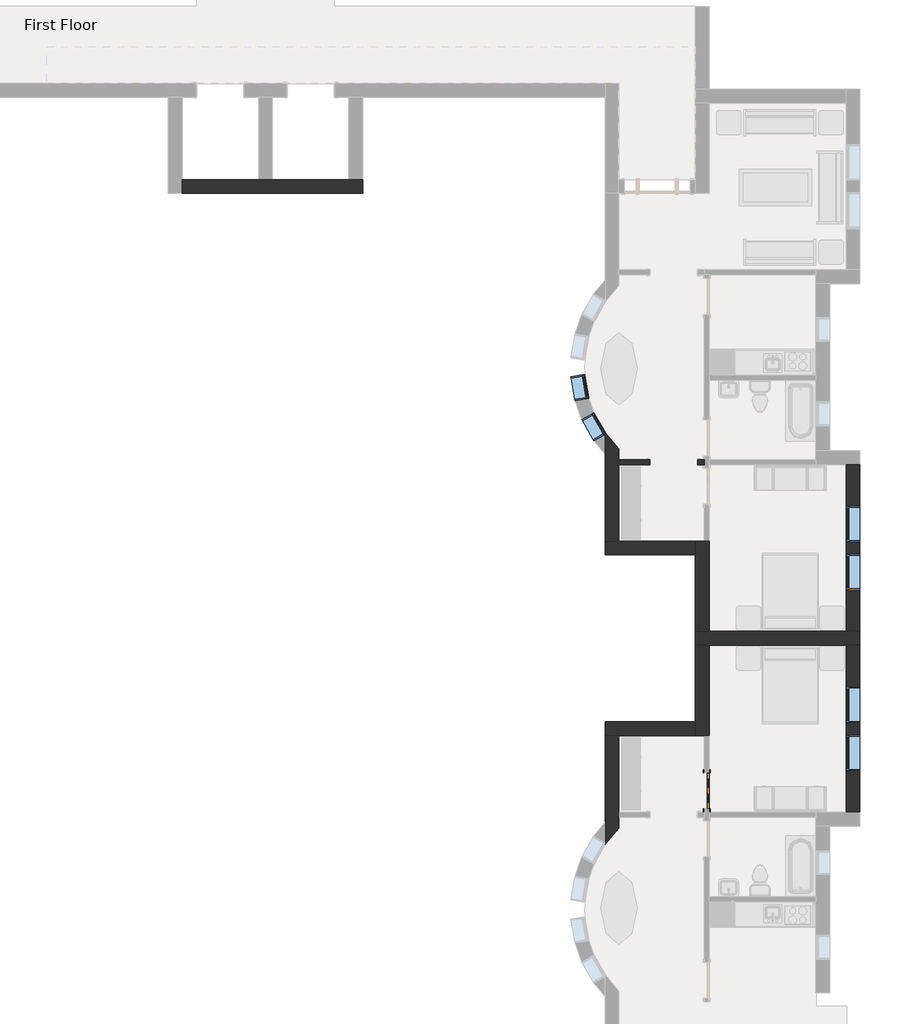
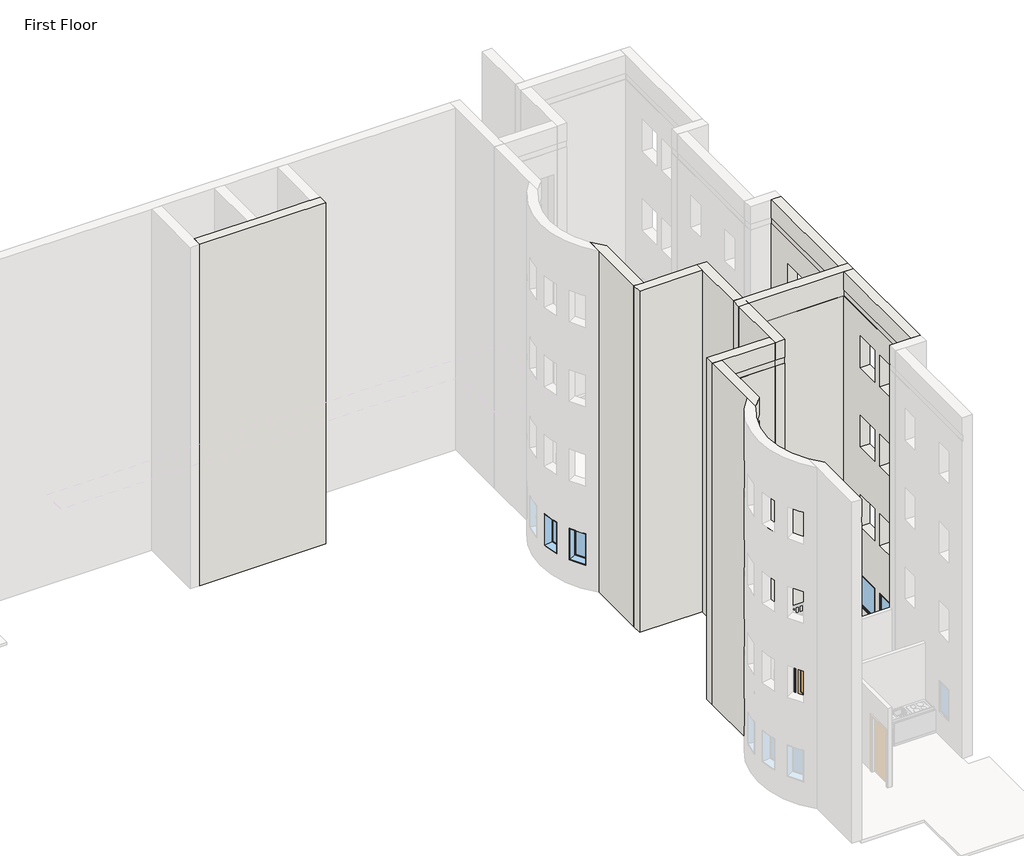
# One storey, part 11 of 24: 12 walls, 6 windows, 1 door.
"""IFC4 building model written with IfcOpenShell, lengths in millimetres."""

from ifc_helpers import new_model, si_unit, frame, origin, place, context, project, spatial, polyline, circle_curve, outline, extrude, faceted_brep, transform, mapped, element, save
from ifc_brep_helpers import plane_surface, revolved_surface, advanced_brep
from components import door_2e3b4da2, window_ed80354a, window_15c49d37, window_0e2fc6ce

model = new_model("IFC4")

# Units and contexts
model_context = context("Model", 3, world=origin())
ifc_project = project(units=[si_unit("LENGTHUNIT", "METRE", prefix="MILLI")], contexts=[model_context])

# Site, building, storey
site = spatial("IfcSite", under=ifc_project)
building = spatial("IfcBuilding", under=site)
storey = spatial("IfcBuildingStorey", under=building, Name="First Floor", Elevation=0.0)

# Door
placement = place(None, origin())
door_shape = door_2e3b4da2(model_context)
element("IfcDoor", 1, ObjectType="Single-Decorative 2 : 36\" x 84\"", at=placement, inside=storey, context=model_context, shape_type="MappedRepresentation", body=[
    mapped(door_shape, transform((-3773.4589563, -15653.8558133, 0.0), x_axis=(0.0, -1.0, 0.0), y_axis=(1.0, 0.0, 0.0), z_axis=(0.0, 0.0, 1.0))),
])

# Walls
element("IfcWall", 2, ObjectType="Exterior - Brick on Mtl. Stud", at=placement, inside=storey, context=model_context, shape_type="Brep", body=[
    faceted_brep([(-17044.9589563, -550.3808133, 0.0), (-12472.9589563, -550.3808133, 0.0), (-12472.9589563, -550.3808133, 13106.4), (-17044.9589563, -550.3808133, 13106.4), (-17044.9589563, -197.9558133, 0.0), (-17044.9589563, -197.9558133, 13106.4), (-15111.3839563, -197.9558133, 13106.4), (-14758.9589563, -197.9558133, 13106.4), (-12825.3839563, -197.9558133, 13106.4), (-12472.9589563, -197.9558133, 13106.4), (-12472.9589563, -197.9558133, 0.0), (-12825.3839563, -197.9558133, 0.0), (-14758.9589563, -197.9558133, 0.0), (-15111.3839563, -197.9558133, 0.0)], [[[0, 1, 2, 3]], [[4, 5, 6, 7, 8, 9, 10, 11, 12, 13]], [[1, 0, 4, 13, 12, 11, 10]], [[3, 2, 9, 8, 7, 6, 5]], [[2, 1, 10, 9]], [[0, 3, 5, 4]]]),
])
element("IfcWall", 3, ObjectType="Exterior - Brick on Mtl. Stud", at=placement, inside=storey, context=model_context, shape_type="Brep", body=[
    faceted_brep([(100.0410437, -11627.9558133, 0.0), (-252.3839563, -11627.9558133, 0.0), (-3709.9589563, -11627.9558133, 0.0), (-4062.3839563, -11627.9558133, 0.0), (-4062.3839563, -11627.9558133, 13106.4), (-3709.9589563, -11627.9558133, 13106.4), (-252.3839563, -11627.9558133, 13106.4), (100.0410437, -11627.9558133, 13106.4), (-3722.6589563, -11627.9558133, 12192.0), (-3709.9589563, -11627.9558133, 12192.0), (-252.3839563, -11627.9558133, 12192.0), (-239.6839563, -11627.9558133, 12192.0), (-239.6839563, -11627.9558133, 12420.6), (-252.3839563, -11627.9558133, 12420.6), (-3709.9589563, -11627.9558133, 12420.6), (-3722.6589563, -11627.9558133, 12420.6), (-4062.3839563, -11980.3808133, 0.0), (-3709.9589563, -11980.3808133, 0.0), (-252.3839563, -11980.3808133, 0.0), (100.0410437, -11980.3808133, 0.0), (100.0410437, -11980.3808133, 13106.4), (-252.3839563, -11980.3808133, 13106.4), (-3709.9589563, -11980.3808133, 13106.4), (-4062.3839563, -11980.3808133, 13106.4), (-3722.6589563, -11640.6558133, 12192.0), (-239.6839563, -11640.6558133, 12192.0), (-239.6839563, -11640.6558133, 12420.6), (-3722.6589563, -11640.6558133, 12420.6)], [[[0, 1, 2, 3, 4, 5, 6, 7], [8, 9, 10, 11, 12, 13, 14, 15]], [[16, 17, 18, 19, 20, 21, 22, 23]], [[3, 2, 1, 0, 19, 18, 17, 16]], [[7, 6, 5, 4, 23, 22, 21, 20]], [[4, 3, 16, 23]], [[0, 7, 20, 19]], [[24, 25, 11, 10, 9, 8]], [[26, 27, 15, 14, 13, 12]], [[25, 24, 27, 26]], [[25, 26, 12, 11]], [[27, 24, 8, 15]]]),
])
element("IfcWall", 4, ObjectType="Exterior - Brick on Mtl. Stud", at=placement, inside=storey, context=model_context, shape_type="Brep", body=[
    faceted_brep([(-3709.9589563, -11627.9558133, 0.0), (-3709.9589563, -9341.9558133, 0.0), (-3709.9589563, -9341.9558133, 3048.0), (-3709.9589563, -9341.9558133, 6096.0), (-3709.9589563, -9341.9558133, 9144.0), (-3709.9589563, -9341.9558133, 12192.0), (-3709.9589563, -11627.9558133, 12192.0), (-3709.9589563, -9341.9558133, 13106.4), (-3709.9589563, -11627.9558133, 13106.4), (-3709.9589563, -11627.9558133, 12420.6), (-3709.9589563, -9341.9558133, 12420.6), (-4062.3839563, -9341.9558133, 0.0), (-4062.3839563, -9694.3808133, 0.0), (-4062.3839563, -11627.9558133, 0.0), (-4062.3839563, -11627.9558133, 13106.4), (-4062.3839563, -9694.3808133, 13106.4), (-4062.3839563, -9341.9558133, 13106.4), (-4062.3839563, -9341.9558133, 12420.6), (-4062.3839563, -9354.6558133, 12420.6), (-4062.3839563, -9354.6558133, 12192.0), (-4062.3839563, -9341.9558133, 12192.0), (-3836.9589563, -9341.9558133, 0.0), (-3836.9589563, -9341.9558133, 12192.0), (-3722.6589563, -11627.9558133, 12192.0), (-3722.6589563, -11627.9558133, 12420.6), (-3722.6589563, -9354.6558133, 12192.0), (-3722.6589563, -9354.6558133, 12420.6)], [[[0, 1, 2, 3, 4, 5, 6]], [[7, 8, 9, 10]], [[11, 12, 13, 14, 15, 16, 17, 18, 19, 20]], [[1, 0, 13, 12, 11, 21]], [[8, 7, 16, 15, 14]], [[1, 21, 11, 20, 22, 5, 4, 3, 2]], [[16, 7, 10, 17]], [[8, 14, 13, 0, 6, 23, 24, 9]], [[19, 25, 23, 6, 5, 22, 20]], [[24, 26, 18, 17, 10, 9]], [[26, 25, 19, 18]], [[25, 26, 24, 23]]]),
])
element("IfcWall", 5, ObjectType="Exterior - Brick on Mtl. Stud", at=placement, inside=storey, context=model_context, shape_type="Brep", body=[
    faceted_brep([(-4062.3839563, -9341.9558133, 0.0), (-5995.9589563, -9341.9558133, 0.0), (-6348.3839563, -9341.9558133, 0.0), (-6348.3839563, -9341.9558133, 13106.4), (-5995.9589563, -9341.9558133, 13106.4), (-4062.3839563, -9341.9558133, 13106.4), (-4062.3839563, -9341.9558133, 12420.6), (-5995.9589563, -9341.9558133, 12420.6), (-6008.6589563, -9341.9558133, 12420.6), (-6008.6589563, -9341.9558133, 12192.0), (-5995.9589563, -9341.9558133, 12192.0), (-4062.3839563, -9341.9558133, 12192.0), (-6348.3839563, -9694.3808133, 0.0), (-4062.3839563, -9694.3808133, 0.0), (-4062.3839563, -9694.3808133, 13106.4), (-6348.3839563, -9694.3808133, 13106.4), (-4062.3839563, -9354.6558133, 12192.0), (-4062.3839563, -9354.6558133, 12420.6), (-6008.6589563, -9354.6558133, 12192.0), (-6008.6589563, -9354.6558133, 12420.6)], [[[0, 1, 2, 3, 4, 5, 6, 7, 8, 9, 10, 11]], [[12, 13, 14, 15]], [[2, 1, 0, 13, 12]], [[5, 4, 3, 15, 14]], [[3, 2, 12, 15]], [[5, 14, 13, 0, 11, 16, 17, 6]], [[9, 18, 16, 11, 10]], [[17, 19, 8, 7, 6]], [[19, 18, 9, 8]], [[18, 19, 17, 16]]]),
])
element("IfcWall", 6, ObjectType="Exterior - Brick on Mtl. Stud", at=placement, inside=storey, context=model_context, shape_type="AdvancedBrep", body=[
    advanced_brep(
    [(-5995.9589563, -9341.9558133, 0.0), (-5995.9589563, -7408.3808133, 0.0), (-5995.9589563, -7281.3808133, 0.0), (-5995.9589563, -7006.552661, 0.0), (-5995.9589563, -7006.552661, 12192.0), (-5995.9589563, -7281.3808133, 12192.0), (-5995.9589563, -7408.3808133, 12192.0), (-5995.9589563, -9341.9558133, 12192.0), (-5995.9589563, -7006.552661, 13106.4), (-5995.9589563, -9341.9558133, 13106.4), (-5995.9589563, -9341.9558133, 12420.6), (-5995.9589563, -7006.552661, 12420.6), (-6348.3839563, -6592.6589631, 0.0), (-6348.3839563, -7150.5535473, 0.0), (-6348.3839563, -9341.9558133, 0.0), (-6348.3839563, -9341.9558133, 13106.4), (-6348.3839563, -7150.5535473, 13106.4), (-6348.3839563, -6592.6589631, 13106.4), (-6348.3839563, -6592.6589631, 12420.6), (-6348.3839563, -6901.1458841, 12420.6), (-6348.3839563, -6901.1458841, 12192.0), (-6348.3839563, -6592.6589631, 12192.0), (-6348.3839563, -6592.6589631, 11277.6), (-6348.3839563, -6641.947211, 11277.6), (-6348.3839563, -6641.947211, 10058.4), (-6348.3839563, -6592.6589631, 10058.4), (-6348.3839563, -6592.6589631, 8229.6), (-6348.3839563, -6641.947211, 8229.6), (-6348.3839563, -6641.947211, 7010.4), (-6348.3839563, -6592.6589631, 7010.4), (-6348.3839563, -6592.6589631, 5181.6), (-6348.3839563, -6641.947211, 5181.6), (-6348.3839563, -6641.947211, 3962.4), (-6348.3839563, -6592.6589631, 3962.4), (-6348.3839563, -6592.6589631, 2133.6), (-6348.3839563, -6641.947211, 2133.6), (-6348.3839563, -6641.947211, 914.4), (-6348.3839563, -6592.6589631, 914.4), (-6342.9143656, -6600.4477821, 914.4), (-6342.9143656, -6600.4477821, 2133.6), (-6342.9143656, -6600.4477821, 3962.4), (-6342.9143656, -6600.4477821, 5181.6), (-6342.9143656, -6600.4477821, 7010.4), (-6342.9143656, -6600.4477821, 8229.6), (-6342.9143656, -6600.4477821, 10058.4), (-6342.9143656, -6600.4477821, 11277.6), (-6008.6589563, -9341.9558133, 12192.0), (-6008.6589563, -9341.9558133, 12420.6), (-6326.3830671, -6629.3735215, 914.4), (-6326.3830671, -6629.3735215, 2133.6), (-6326.3830671, -6629.3735215, 10058.4), (-6326.3830671, -6629.3735215, 11277.6), (-6326.3830671, -6629.3735215, 3962.4), (-6326.3830671, -6629.3735215, 5181.6), (-6326.3830671, -6629.3735215, 7010.4), (-6326.3830671, -6629.3735215, 8229.6), (-6008.6589563, -7249.4736866, 12192.0), (-6008.6589563, -7249.4736866, 12420.6)],
    [
        (0, 1),
        (1, 2),
        (2, 3),
        (3, 4),
        (4, 5),
        (5, 6),
        (6, 7),
        (7, 0),
        (8, 9),
        (9, 10),
        (10, 11),
        (11, 8),
        (12, 13),
        (13, 14),
        (14, 15),
        (15, 16),
        (16, 17),
        (17, 18),
        (18, 19),
        (19, 20),
        (20, 21),
        (21, 22),
        (22, 23),
        (23, 24),
        (24, 25),
        (25, 26),
        (26, 27),
        (27, 28),
        (28, 29),
        (29, 30),
        (30, 31),
        (31, 32),
        (32, 33),
        (33, 34),
        (34, 35),
        (35, 36),
        (36, 37),
        (37, 12),
        (0, 14),
        (12, 3, circle_curve(frame((-3995.4640713, -4946.1683133, 0.0), z_axis=(0.0, 0.0, 1.0), x_axis=(0.0, 1.0, 0.0)), 2871.7875)),
        (8, 17, circle_curve(frame((-3995.4640713, -4946.1683133, 13106.4), z_axis=(0.0, 0.0, -1.0), x_axis=(0.0, 1.0, 0.0)), 2871.7875)),
        (15, 9),
        (37, 38, circle_curve(frame((-3995.4640713, -4946.1683133, 914.4), z_axis=(0.0, 0.0, 1.0), x_axis=(0.0, 1.0, 0.0)), 2871.7875)),
        (38, 39),
        (39, 34, circle_curve(frame((-3995.4640713, -4946.1683133, 2133.6), z_axis=(0.0, 0.0, -1.0), x_axis=(0.0, 1.0, 0.0)), 2871.7875)),
        (33, 40, circle_curve(frame((-3995.4640713, -4946.1683133, 3962.4), z_axis=(0.0, 0.0, 1.0), x_axis=(0.0, 1.0, 0.0)), 2871.7875)),
        (40, 41),
        (41, 30, circle_curve(frame((-3995.4640713, -4946.1683133, 5181.6), z_axis=(0.0, 0.0, -1.0), x_axis=(0.0, 1.0, 0.0)), 2871.7875)),
        (29, 42, circle_curve(frame((-3995.4640713, -4946.1683133, 7010.4), z_axis=(0.0, 0.0, 1.0), x_axis=(0.0, 1.0, 0.0)), 2871.7875)),
        (42, 43),
        (43, 26, circle_curve(frame((-3995.4640713, -4946.1683133, 8229.6), z_axis=(0.0, 0.0, -1.0), x_axis=(0.0, 1.0, 0.0)), 2871.7875)),
        (25, 44, circle_curve(frame((-3995.4640713, -4946.1683133, 10058.4), z_axis=(0.0, 0.0, 1.0), x_axis=(0.0, 1.0, 0.0)), 2871.7875)),
        (44, 45),
        (45, 22, circle_curve(frame((-3995.4640713, -4946.1683133, 11277.6), z_axis=(0.0, 0.0, -1.0), x_axis=(0.0, 1.0, 0.0)), 2871.7875)),
        (21, 4, circle_curve(frame((-3995.4640713, -4946.1683133, 12192.0), z_axis=(0.0, 0.0, 1.0), x_axis=(0.0, 1.0, 0.0)), 2871.7875)),
        (11, 18, circle_curve(frame((-3995.4640713, -4946.1683133, 12420.6), z_axis=(0.0, 0.0, -1.0), x_axis=(0.0, 1.0, 0.0)), 2871.7875)),
        (7, 46),
        (46, 47),
        (47, 10),
        (48, 49),
        (49, 39),
        (38, 48),
        (36, 48),
        (35, 49),
        (50, 51),
        (51, 45),
        (44, 50),
        (24, 50),
        (23, 51),
        (52, 53),
        (53, 41),
        (40, 52),
        (32, 52),
        (31, 53),
        (54, 55),
        (55, 43),
        (42, 54),
        (28, 54),
        (27, 55),
        (20, 56, circle_curve(frame((-3995.4640713, -4946.1683133, 12192.0), z_axis=(0.0, 0.0, 1.0), x_axis=(0.0, -1.0, 0.0)), 3059.1125)),
        (56, 46),
        (47, 57),
        (57, 19, circle_curve(frame((-3995.4640713, -4946.1683133, 12420.6), z_axis=(0.0, 0.0, -1.0), x_axis=(0.0, -1.0, 0.0)), 3059.1125)),
        (57, 56),
    ],
    [
        plane_surface(frame((-5995.9589563, -9518.1683133, 0.0), z_axis=(1.0, 0.0, 0.0), x_axis=(0.0, 1.0, 0.0))),
        plane_surface(frame((-6348.3839563, -9518.1683133, 0.0), z_axis=(-1.0, 0.0, 0.0), x_axis=(0.0, -1.0, 0.0))),
        plane_surface(frame((-5995.9589563, -9518.1683133, 0.0), z_axis=(0.0, 0.0, -1.0), x_axis=(-1.0, 0.0, 0.0))),
        plane_surface(frame((-5995.9589563, -7079.7683133, 13106.4), z_axis=(0.0, 0.0, 1.0), x_axis=(-1.0, 0.0, 0.0))),
        revolved_surface(polyline([(-3995.4640713, -2074.3808132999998, 0.0), (-3995.4640713, -2074.3808132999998, 12192.0)]), (-3995.4640713, -4946.1683133, 0.0), (0.0, 0.0, -1.0)),
        revolved_surface(polyline([(-3995.4640713, -2074.3808132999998, 12420.6), (-3995.4640713, -2074.3808132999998, 13106.4)]), (-3995.4640713, -4946.1683133, 0.0), (0.0, 0.0, -1.0)),
        plane_surface(frame((-3886.1714563, -9341.9558133, 0.0), z_axis=(0.0, -1.0, 0.0), x_axis=(-1.0, 0.0, 0.0))),
        plane_surface(frame((-6628.8611513, -6100.1106675, 2133.6), z_axis=(-0.8682133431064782, -0.496191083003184, 0.0), x_axis=(0.0, 0.0, 1.0))),
        plane_surface(frame((-6933.4709271, -6274.1976656, 914.4), z_axis=(0.0, 0.0, 1.0000000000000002), x_axis=(0.8682133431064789, 0.49619108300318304, 0.0))),
        plane_surface(frame((-6630.9928429, -6803.4605195, 914.4), z_axis=(-0.4961910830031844, 0.8682133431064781, 0.0), x_axis=(0.8682133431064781, 0.4961910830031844, 0.0))),
        plane_surface(frame((-6630.9928429, -6803.4605195, 2133.6), z_axis=(0.0, 0.0, -1.0000000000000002), x_axis=(0.8682133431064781, 0.4961910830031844, 0.0))),
        plane_surface(frame((-6628.8611513, -6100.1106675, 11277.6), z_axis=(-0.8682133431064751, -0.4961910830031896, 0.0), x_axis=(0.0, 0.0, 1.0))),
        plane_surface(frame((-6933.4709271, -6274.1976656, 10058.4), z_axis=(0.0, 0.0, 1.0), x_axis=(0.8682133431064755, 0.49619108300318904, 0.0))),
        plane_surface(frame((-6630.9928429, -6803.4605195, 10058.4), z_axis=(-0.49619108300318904, 0.8682133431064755, 0.0), x_axis=(0.8682133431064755, 0.49619108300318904, 0.0))),
        plane_surface(frame((-6630.9928429, -6803.4605195, 11277.6), z_axis=(0.0, 0.0, -1.0), x_axis=(0.8682133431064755, 0.49619108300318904, 0.0))),
        plane_surface(frame((-6628.8611513, -6100.1106675, 5181.6), z_axis=(-0.8682133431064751, -0.4961910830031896, 0.0), x_axis=(0.0, 0.0, 1.0))),
        plane_surface(frame((-6933.4709271, -6274.1976656, 3962.4), z_axis=(0.0, 0.0, 1.0), x_axis=(0.8682133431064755, 0.49619108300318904, 0.0))),
        plane_surface(frame((-6630.9928429, -6803.4605195, 3962.4), z_axis=(-0.49619108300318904, 0.8682133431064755, 0.0), x_axis=(0.8682133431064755, 0.49619108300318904, 0.0))),
        plane_surface(frame((-6630.9928429, -6803.4605195, 5181.6), z_axis=(0.0, 0.0, -1.0), x_axis=(0.8682133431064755, 0.49619108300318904, 0.0))),
        plane_surface(frame((-6628.8611513, -6100.1106675, 8229.6), z_axis=(-0.8682133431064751, -0.4961910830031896, 0.0), x_axis=(0.0, 0.0, 1.0))),
        plane_surface(frame((-6933.4709271, -6274.1976656, 7010.4), z_axis=(0.0, 0.0, 1.0), x_axis=(0.8682133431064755, 0.49619108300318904, 0.0))),
        plane_surface(frame((-6630.9928429, -6803.4605195, 7010.4), z_axis=(-0.49619108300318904, 0.8682133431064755, 0.0), x_axis=(0.8682133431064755, 0.49619108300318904, 0.0))),
        plane_surface(frame((-6630.9928429, -6803.4605195, 8229.6), z_axis=(0.0, 0.0, -1.0), x_axis=(0.8682133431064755, 0.49619108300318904, 0.0))),
        plane_surface(frame((-239.6839563, -11640.6558133, 12192.0), z_axis=(0.0, 0.0, 1.0), x_axis=(1.0, 0.0, 0.0))),
        plane_surface(frame((-239.6839563, -11640.6558133, 12420.6), z_axis=(0.0, 0.0, -1.0), x_axis=(1.0, 0.0, 0.0))),
        revolved_surface(polyline([(-3995.4640713, -8005.2808133, 12420.6), (-3995.4640713, -8005.2808133, 12192.0)]), (-3995.4640713, -4946.1683133, 12192.0), (0.0, 0.0, 1.0)),
        plane_surface(frame((-6008.6589563, -7249.4736866, 12192.0), z_axis=(1.0, 0.0, 0.0), x_axis=(0.0, -1.0, 0.0))),
    ],
    [
        (0, [[1, 2, 3, 4, 5, 6, 7, 8]]),
        (0, [[9, 10, 11, 12]]),
        (1, [[13, 14, 15, 16, 17, 18, 19, 20, 21, 22, 23, 24, 25, 26, 27, 28, 29, 30, 31, 32, 33, 34, 35, 36, 37, 38]]),
        (2, [[-3, -2, -1, 39, -14, -13, 40]]),
        (3, [[-9, 41, -17, -16, 42]]),
        (4, [[-40, -38, 43, 44, 45, -34, 46, 47, 48, -30, 49, 50, 51, -26, 52, 53, 54, -22, 55, -4]]),
        (5, [[-41, -12, 56, -18]]),
        (6, [[-42, -15, -39, -8, 57, 58, 59, -10]]),
        (7, [[60, 61, -44, 62]]),
        (8, [[63, -62, -43, -37]]),
        (9, [[-60, -63, -36, 64]]),
        (10, [[-64, -35, -45, -61]]),
        (11, [[65, 66, -53, 67]]),
        (12, [[68, -67, -52, -25]]),
        (13, [[-65, -68, -24, 69]]),
        (14, [[-69, -23, -54, -66]]),
        (15, [[70, 71, -47, 72]]),
        (16, [[73, -72, -46, -33]]),
        (17, [[-70, -73, -32, 74]]),
        (18, [[-74, -31, -48, -71]]),
        (19, [[75, 76, -50, 77]]),
        (20, [[78, -77, -49, -29]]),
        (21, [[-75, -78, -28, 79]]),
        (22, [[-79, -27, -51, -76]]),
        (23, [[80, 81, -57, -7, -6, -5, -55, -21]]),
        (24, [[82, 83, -19, -56, -11, -59]]),
        (25, [[84, -80, -20, -83]]),
        (26, [[-84, -82, -58, -81]]),
    ],
),
])
element("IfcWall", 7, ObjectType="Exterior - Brick on Mtl. Stud", at=placement, inside=storey, context=model_context, shape_type="Brep", body=[
    faceted_brep([(100.0410437, -11627.9558133, 0.0), (100.0410437, -7408.3808133, 0.0), (100.0410437, -7408.3808133, 13106.4), (100.0410437, -11627.9558133, 13106.4), (100.0410437, -9365.7683133, 7010.4), (100.0410437, -9365.7683133, 8229.6), (100.0410437, -8451.3683133, 8229.6), (100.0410437, -8451.3683133, 7010.4), (100.0410437, -10584.9683133, 7010.4), (100.0410437, -10584.9683133, 8229.6), (100.0410437, -9670.5683133, 8229.6), (100.0410437, -9670.5683133, 7010.4), (100.0410437, -9365.7683133, 3962.4), (100.0410437, -9365.7683133, 5181.6), (100.0410437, -8451.3683133, 5181.6), (100.0410437, -8451.3683133, 3962.4), (100.0410437, -10584.9683133, 3962.4), (100.0410437, -10584.9683133, 5181.6), (100.0410437, -9670.5683133, 5181.6), (100.0410437, -9670.5683133, 3962.4), (100.0410437, -9365.7683133, 10058.4), (100.0410437, -9365.7683133, 11277.6), (100.0410437, -8451.3683133, 11277.6), (100.0410437, -8451.3683133, 10058.4), (100.0410437, -10584.9683133, 10058.4), (100.0410437, -10584.9683133, 11277.6), (100.0410437, -9670.5683133, 11277.6), (100.0410437, -9670.5683133, 10058.4), (100.0410437, -9365.7683133, 914.4), (100.0410437, -9365.7683133, 2133.6), (100.0410437, -8451.3683133, 2133.6), (100.0410437, -8451.3683133, 914.4), (100.0410437, -10584.9683133, 914.4), (100.0410437, -10584.9683133, 2133.6), (100.0410437, -9670.5683133, 2133.6), (100.0410437, -9670.5683133, 914.4), (-252.3839563, -7408.3808133, 0.0), (-252.3839563, -11627.9558133, 0.0), (-252.3839563, -11627.9558133, 12192.0), (-252.3839563, -7408.3808133, 12192.0), (-252.3839563, -9365.7683133, 8229.6), (-252.3839563, -9365.7683133, 7010.4), (-252.3839563, -8451.3683133, 7010.4), (-252.3839563, -8451.3683133, 8229.6), (-252.3839563, -10584.9683133, 8229.6), (-252.3839563, -10584.9683133, 7010.4), (-252.3839563, -9670.5683133, 7010.4), (-252.3839563, -9670.5683133, 8229.6), (-252.3839563, -9365.7683133, 5181.6), (-252.3839563, -9365.7683133, 3962.4), (-252.3839563, -8451.3683133, 3962.4), (-252.3839563, -8451.3683133, 5181.6), (-252.3839563, -10584.9683133, 5181.6), (-252.3839563, -10584.9683133, 3962.4), (-252.3839563, -9670.5683133, 3962.4), (-252.3839563, -9670.5683133, 5181.6), (-252.3839563, -9365.7683133, 11277.6), (-252.3839563, -9365.7683133, 10058.4), (-252.3839563, -8451.3683133, 10058.4), (-252.3839563, -8451.3683133, 11277.6), (-252.3839563, -10584.9683133, 11277.6), (-252.3839563, -10584.9683133, 10058.4), (-252.3839563, -9670.5683133, 10058.4), (-252.3839563, -9670.5683133, 11277.6), (-252.3839563, -9365.7683133, 2133.6), (-252.3839563, -9365.7683133, 914.4), (-252.3839563, -8451.3683133, 914.4), (-252.3839563, -8451.3683133, 2133.6), (-252.3839563, -10584.9683133, 2133.6), (-252.3839563, -10584.9683133, 914.4), (-252.3839563, -9670.5683133, 914.4), (-252.3839563, -9670.5683133, 2133.6), (-252.3839563, -11627.9558133, 13106.4), (-252.3839563, -7408.3808133, 13106.4), (-252.3839563, -7408.3808133, 12420.6), (-252.3839563, -11627.9558133, 12420.6), (-239.6839563, -11627.9558133, 12420.6), (-239.6839563, -11627.9558133, 12192.0), (-239.6839563, -7408.3808133, 12192.0), (-239.6839563, -7408.3808133, 12420.6)], [[[0, 1, 2, 3], [4, 5, 6, 7], [8, 9, 10, 11], [12, 13, 14, 15], [16, 17, 18, 19], [20, 21, 22, 23], [24, 25, 26, 27], [28, 29, 30, 31], [32, 33, 34, 35]], [[36, 37, 38, 39], [40, 41, 42, 43], [44, 45, 46, 47], [48, 49, 50, 51], [52, 53, 54, 55], [56, 57, 58, 59], [60, 61, 62, 63], [64, 65, 66, 67], [68, 69, 70, 71]], [[72, 73, 74, 75]], [[1, 0, 37, 36]], [[3, 2, 73, 72]], [[0, 3, 72, 75, 76, 77, 38, 37]], [[2, 1, 36, 39, 78, 79, 74, 73]], [[41, 40, 5, 4]], [[42, 41, 4, 7]], [[43, 42, 7, 6]], [[40, 43, 6, 5]], [[45, 44, 9, 8]], [[46, 45, 8, 11]], [[47, 46, 11, 10]], [[44, 47, 10, 9]], [[49, 48, 13, 12]], [[50, 49, 12, 15]], [[51, 50, 15, 14]], [[48, 51, 14, 13]], [[53, 52, 17, 16]], [[54, 53, 16, 19]], [[55, 54, 19, 18]], [[52, 55, 18, 17]], [[57, 56, 21, 20]], [[58, 57, 20, 23]], [[59, 58, 23, 22]], [[56, 59, 22, 21]], [[61, 60, 25, 24]], [[62, 61, 24, 27]], [[63, 62, 27, 26]], [[60, 63, 26, 25]], [[65, 64, 29, 28]], [[66, 65, 28, 31]], [[67, 66, 31, 30]], [[64, 67, 30, 29]], [[69, 68, 33, 32]], [[70, 69, 32, 35]], [[71, 70, 35, 34]], [[68, 71, 34, 33]], [[77, 78, 39, 38]], [[79, 76, 75, 74]], [[78, 77, 76, 79]]]),
])
element("IfcWall", 8, ObjectType="Exterior - Brick on Mtl. Stud", at=placement, inside=storey, context=model_context, shape_type="SweptSolid", body=[
    extrude(outline(polyline([(-11627.9558133, 13106.4), (-11627.9558133, 0.0), (-11980.3808133, 0.0), (-11980.3808133, 12192.0), (-11967.6808133, 12192.0), (-11967.6808133, 12420.6), (-11980.3808133, 12420.6), (-11980.3808133, 13106.4), (-11627.9558133, 13106.4)])), frame((-3709.9589563, 0.0, 0.0), z_axis=(1.0, 0.0, 0.0), x_axis=(0.0, 1.0, 0.0)), (0.0, 0.0, 1.0), 3457.575),
])
element("IfcWall", 9, ObjectType="Exterior - Brick on Mtl. Stud", at=placement, inside=storey, context=model_context, shape_type="Brep", body=[
    faceted_brep([(-4062.3839563, -11980.3808133, 0.0), (-4062.3839563, -13913.9558133, 0.0), (-4062.3839563, -14266.3808133, 0.0), (-4062.3839563, -14266.3808133, 12192.0), (-4062.3839563, -14253.6808133, 12192.0), (-4062.3839563, -14253.6808133, 12420.6), (-4062.3839563, -14266.3808133, 12420.6), (-4062.3839563, -14266.3808133, 13106.4), (-4062.3839563, -13913.9558133, 13106.4), (-4062.3839563, -11980.3808133, 13106.4), (-3709.9589563, -14266.3808133, 0.0), (-3709.9589563, -11980.3808133, 0.0), (-3709.9589563, -11980.3808133, 12192.0), (-3709.9589563, -14266.3808133, 12192.0), (-3709.9589563, -14266.3808133, 9144.0), (-3709.9589563, -14266.3808133, 6096.0), (-3709.9589563, -14266.3808133, 3048.0), (-3709.9589563, -11980.3808133, 13106.4), (-3709.9589563, -14266.3808133, 13106.4), (-3709.9589563, -14266.3808133, 12420.6), (-3709.9589563, -11980.3808133, 12420.6), (-3836.9589563, -14266.3808133, 0.0), (-3836.9589563, -14266.3808133, 12192.0), (-3722.6589563, -11980.3808133, 12420.6), (-3722.6589563, -11980.3808133, 12192.0), (-3722.6589563, -14253.6808133, 12192.0), (-3722.6589563, -14253.6808133, 12420.6)], [[[0, 1, 2, 3, 4, 5, 6, 7, 8, 9]], [[10, 11, 12, 13, 14, 15, 16]], [[17, 18, 19, 20]], [[2, 1, 0, 11, 10, 21]], [[9, 8, 7, 18, 17]], [[2, 21, 10, 16, 15, 14, 13, 22, 3]], [[18, 7, 6, 19]], [[0, 9, 17, 20, 23, 24, 12, 11]], [[24, 25, 4, 3, 22, 13, 12]], [[5, 26, 23, 20, 19, 6]], [[25, 26, 5, 4]], [[26, 25, 24, 23]]]),
])
element("IfcWall", 10, ObjectType="Exterior - Brick on Mtl. Stud", at=placement, inside=storey, context=model_context, shape_type="Brep", body=[
    faceted_brep([(-4062.3839563, -13913.9558133, 0.0), (-6348.3839563, -13913.9558133, 0.0), (-6348.3839563, -13913.9558133, 13106.4), (-4062.3839563, -13913.9558133, 13106.4), (-6348.3839563, -14266.3808133, 0.0), (-5995.9589563, -14266.3808133, 0.0), (-4062.3839563, -14266.3808133, 0.0), (-4062.3839563, -14266.3808133, 12192.0), (-5995.9589563, -14266.3808133, 12192.0), (-6008.6589563, -14266.3808133, 12192.0), (-6008.6589563, -14266.3808133, 12420.6), (-5995.9589563, -14266.3808133, 12420.6), (-4062.3839563, -14266.3808133, 12420.6), (-4062.3839563, -14266.3808133, 13106.4), (-5995.9589563, -14266.3808133, 13106.4), (-6348.3839563, -14266.3808133, 13106.4), (-4062.3839563, -14253.6808133, 12420.6), (-4062.3839563, -14253.6808133, 12192.0), (-6008.6589563, -14253.6808133, 12192.0), (-6008.6589563, -14253.6808133, 12420.6)], [[[0, 1, 2, 3]], [[4, 5, 6, 7, 8, 9, 10, 11, 12, 13, 14, 15]], [[1, 0, 6, 5, 4]], [[3, 2, 15, 14, 13]], [[2, 1, 4, 15]], [[0, 3, 13, 12, 16, 17, 7, 6]], [[17, 18, 9, 8, 7]], [[10, 19, 16, 12, 11]], [[18, 19, 10, 9]], [[19, 18, 17, 16]]]),
])
element("IfcWall", 11, ObjectType="Exterior - Brick on Mtl. Stud", at=placement, inside=storey, context=model_context, shape_type="AdvancedBrep", body=[
    advanced_brep(
    [(-6348.3839563, -14266.3808133, 0.0), (-6348.3839563, -16457.7830793, 0.0), (-6348.3839563, -17015.6776635, 0.0), (-6348.3839563, -17015.6776635, 914.4), (-6348.3839563, -16966.3894156, 914.4), (-6348.3839563, -16966.3894156, 2133.6), (-6348.3839563, -17015.6776635, 2133.6), (-6348.3839563, -17015.6776635, 3962.4), (-6348.3839563, -16966.3894156, 3962.4), (-6348.3839563, -16966.3894156, 5181.6), (-6348.3839563, -17015.6776635, 5181.6), (-6348.3839563, -17015.6776635, 7010.4), (-6348.3839563, -16966.3894156, 7010.4), (-6348.3839563, -16966.3894156, 8229.6), (-6348.3839563, -17015.6776635, 8229.6), (-6348.3839563, -17015.6776635, 10058.4), (-6348.3839563, -16966.3894156, 10058.4), (-6348.3839563, -16966.3894156, 11277.6), (-6348.3839563, -17015.6776635, 11277.6), (-6348.3839563, -17015.6776635, 12192.0), (-6348.3839563, -16707.1907425, 12192.0), (-6348.3839563, -16707.1907425, 12420.6), (-6348.3839563, -17015.6776635, 12420.6), (-6348.3839563, -17015.6776635, 13106.4), (-6348.3839563, -16457.7830793, 13106.4), (-6348.3839563, -14266.3808133, 13106.4), (-5995.9589563, -16601.7839656, 0.0), (-5995.9589563, -16326.9558133, 0.0), (-5995.9589563, -16199.9558133, 0.0), (-5995.9589563, -14266.3808133, 0.0), (-5995.9589563, -14266.3808133, 12192.0), (-5995.9589563, -16199.9558133, 12192.0), (-5995.9589563, -16326.9558133, 12192.0), (-5995.9589563, -16601.7839656, 12192.0), (-5995.9589563, -14266.3808133, 13106.4), (-5995.9589563, -16601.7839656, 13106.4), (-5995.9589563, -16601.7839656, 12420.6), (-5995.9589563, -14266.3808133, 12420.6), (-6342.8279046, -17007.7661617, 11277.6), (-6342.8279046, -17007.7661617, 10058.4), (-6342.8279046, -17007.7661617, 8229.6), (-6342.8279046, -17007.7661617, 7010.4), (-6342.8279046, -17007.7661617, 5181.6), (-6342.8279046, -17007.7661617, 3962.4), (-6342.8279046, -17007.7661617, 2133.6), (-6342.8279046, -17007.7661617, 914.4), (-6008.6589563, -14266.3808133, 12420.6), (-6008.6589563, -14266.3808133, 12192.0), (-6326.370745, -16978.9701473, 2133.6), (-6326.370745, -16978.9701473, 914.4), (-6326.370745, -16978.9701473, 11277.6), (-6326.370745, -16978.9701473, 10058.4), (-6326.370745, -16978.9701473, 5181.6), (-6326.370745, -16978.9701473, 3962.4), (-6326.370745, -16978.9701473, 8229.6), (-6326.370745, -16978.9701473, 7010.4), (-6008.6589563, -16358.86294, 12192.0), (-6008.6589563, -16358.86294, 12420.6)],
    [
        (0, 1),
        (1, 2),
        (2, 3),
        (3, 4),
        (4, 5),
        (5, 6),
        (6, 7),
        (7, 8),
        (8, 9),
        (9, 10),
        (10, 11),
        (11, 12),
        (12, 13),
        (13, 14),
        (14, 15),
        (15, 16),
        (16, 17),
        (17, 18),
        (18, 19),
        (19, 20),
        (20, 21),
        (21, 22),
        (22, 23),
        (23, 24),
        (24, 25),
        (25, 0),
        (26, 27),
        (27, 28),
        (28, 29),
        (29, 30),
        (30, 31),
        (31, 32),
        (32, 33),
        (33, 26),
        (34, 35),
        (35, 36),
        (36, 37),
        (37, 34),
        (0, 29),
        (26, 2, circle_curve(frame((-3995.4640713, -18662.1683133, 0.0), z_axis=(0.0, 0.0, 1.0), x_axis=(0.0, -1.0, 0.0)), 2871.7875)),
        (23, 35, circle_curve(frame((-3995.4640713, -18662.1683133, 13106.4), z_axis=(0.0, 0.0, -1.0), x_axis=(0.0, -1.0, 0.0)), 2871.7875)),
        (34, 25),
        (33, 19, circle_curve(frame((-3995.4640713, -18662.1683133, 12192.0), z_axis=(0.0, 0.0, 1.0), x_axis=(0.0, -1.0, 0.0)), 2871.7875)),
        (18, 38, circle_curve(frame((-3995.4640713, -18662.1683133, 11277.6), z_axis=(0.0, 0.0, -1.0), x_axis=(0.0, -1.0, 0.0)), 2871.7875)),
        (38, 39),
        (39, 15, circle_curve(frame((-3995.4640713, -18662.1683133, 10058.4), z_axis=(0.0, 0.0, 1.0), x_axis=(0.0, -1.0, 0.0)), 2871.7875)),
        (14, 40, circle_curve(frame((-3995.4640713, -18662.1683133, 8229.6), z_axis=(0.0, 0.0, -1.0), x_axis=(0.0, -1.0, 0.0)), 2871.7875)),
        (40, 41),
        (41, 11, circle_curve(frame((-3995.4640713, -18662.1683133, 7010.4), z_axis=(0.0, 0.0, 1.0), x_axis=(0.0, -1.0, 0.0)), 2871.7875)),
        (10, 42, circle_curve(frame((-3995.4640713, -18662.1683133, 5181.6), z_axis=(0.0, 0.0, -1.0), x_axis=(0.0, -1.0, 0.0)), 2871.7875)),
        (42, 43),
        (43, 7, circle_curve(frame((-3995.4640713, -18662.1683133, 3962.4), z_axis=(0.0, 0.0, 1.0), x_axis=(0.0, -1.0, 0.0)), 2871.7875)),
        (6, 44, circle_curve(frame((-3995.4640713, -18662.1683133, 2133.6), z_axis=(0.0, 0.0, -1.0), x_axis=(0.0, -1.0, 0.0)), 2871.7875)),
        (44, 45),
        (45, 3, circle_curve(frame((-3995.4640713, -18662.1683133, 914.4), z_axis=(0.0, 0.0, 1.0), x_axis=(0.0, -1.0, 0.0)), 2871.7875)),
        (22, 36, circle_curve(frame((-3995.4640713, -18662.1683133, 12420.6), z_axis=(0.0, 0.0, -1.0), x_axis=(0.0, -1.0, 0.0)), 2871.7875)),
        (37, 46),
        (46, 47),
        (47, 30),
        (48, 49),
        (49, 45),
        (44, 48),
        (49, 4),
        (48, 5),
        (50, 51),
        (51, 39),
        (38, 50),
        (51, 16),
        (50, 17),
        (52, 53),
        (53, 43),
        (42, 52),
        (53, 8),
        (52, 9),
        (54, 55),
        (55, 41),
        (40, 54),
        (55, 12),
        (54, 13),
        (47, 56),
        (56, 20, circle_curve(frame((-3995.4640713, -18662.1683133, 12192.0), z_axis=(0.0, 0.0, 1.0), x_axis=(0.0, -1.0, 0.0)), 3059.1125)),
        (21, 57, circle_curve(frame((-3995.4640713, -18662.1683133, 12420.6), z_axis=(0.0, 0.0, -1.0), x_axis=(0.0, -1.0, 0.0)), 3059.1125)),
        (57, 46),
        (56, 57),
    ],
    [
        plane_surface(frame((-6348.3839563, -14090.1683133, 0.0), z_axis=(-1.0, 0.0, 0.0), x_axis=(0.0, -1.0, 0.0))),
        plane_surface(frame((-5995.9589563, -14090.1683133, 0.0), z_axis=(1.0, 0.0, 0.0), x_axis=(0.0, 1.0, 0.0))),
        plane_surface(frame((-6348.3839563, -14090.1683133, 0.0), z_axis=(0.0, 0.0, -1.0), x_axis=(1.0, 0.0, 0.0))),
        plane_surface(frame((-6348.3839563, -16528.5683133, 13106.4), z_axis=(0.0, 0.0, 1.0), x_axis=(1.0, 0.0, 0.0))),
        revolved_surface(polyline([(-3995.4640713, -21533.9558133, 0.0), (-3995.4640713, -21533.9558133, 12192.0)]), (-3995.4640713, -18662.1683133, 0.0), (0.0, 0.0, -1.0)),
        revolved_surface(polyline([(-3995.4640713, -21533.9558133, 12420.6), (-3995.4640713, -21533.9558133, 13106.4)]), (-3995.4640713, -18662.1683133, 0.0), (0.0, 0.0, -1.0)),
        plane_surface(frame((-3886.1714563, -14266.3808133, 0.0), z_axis=(0.0, 1.0, 0.0), x_axis=(1.0, 0.0, 0.0))),
        plane_surface(frame((-6628.8488292, -17508.2330013, 2133.6), z_axis=(-0.8682133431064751, 0.49619108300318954, 0.0), x_axis=(0.0, 0.0, -1.0))),
        plane_surface(frame((-6628.8488292, -17508.2330013, 914.4), z_axis=(0.0, 0.0, 1.0), x_axis=(-0.8682133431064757, 0.4961910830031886, 0.0))),
        plane_surface(frame((-6326.370745, -16978.9701473, 914.4), z_axis=(-0.4961910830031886, -0.8682133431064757, 0.0), x_axis=(-0.8682133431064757, 0.4961910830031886, 0.0))),
        plane_surface(frame((-6326.370745, -16978.9701473, 2133.6), z_axis=(0.0, 0.0, -1.0), x_axis=(-0.8682133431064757, 0.4961910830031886, 0.0))),
        plane_surface(frame((-6628.8488292, -17508.2330013, 11277.6), z_axis=(-0.868213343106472, 0.49619108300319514, 0.0), x_axis=(0.0, 0.0, -1.0))),
        plane_surface(frame((-6628.8488292, -17508.2330013, 10058.4), z_axis=(0.0, 0.0, 1.0000000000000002), x_axis=(-0.8682133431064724, 0.4961910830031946, 0.0))),
        plane_surface(frame((-6326.370745, -16978.9701473, 10058.4), z_axis=(-0.4961910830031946, -0.8682133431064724, 0.0), x_axis=(-0.8682133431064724, 0.4961910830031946, 0.0))),
        plane_surface(frame((-6326.370745, -16978.9701473, 11277.6), z_axis=(0.0, 0.0, -1.0000000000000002), x_axis=(-0.8682133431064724, 0.4961910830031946, 0.0))),
        plane_surface(frame((-6628.8488292, -17508.2330013, 5181.6), z_axis=(-0.868213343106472, 0.49619108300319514, 0.0), x_axis=(0.0, 0.0, -1.0))),
        plane_surface(frame((-6628.8488292, -17508.2330013, 3962.4), z_axis=(0.0, 0.0, 1.0000000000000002), x_axis=(-0.8682133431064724, 0.4961910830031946, 0.0))),
        plane_surface(frame((-6326.370745, -16978.9701473, 3962.4), z_axis=(-0.4961910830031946, -0.8682133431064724, 0.0), x_axis=(-0.8682133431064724, 0.4961910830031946, 0.0))),
        plane_surface(frame((-6326.370745, -16978.9701473, 5181.6), z_axis=(0.0, 0.0, -1.0000000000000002), x_axis=(-0.8682133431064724, 0.4961910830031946, 0.0))),
        plane_surface(frame((-6628.8488292, -17508.2330013, 8229.6), z_axis=(-0.868213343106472, 0.49619108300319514, 0.0), x_axis=(0.0, 0.0, -1.0))),
        plane_surface(frame((-6628.8488292, -17508.2330013, 7010.4), z_axis=(0.0, 0.0, 1.0000000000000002), x_axis=(-0.8682133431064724, 0.4961910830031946, 0.0))),
        plane_surface(frame((-6326.370745, -16978.9701473, 7010.4), z_axis=(-0.4961910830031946, -0.8682133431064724, 0.0), x_axis=(-0.8682133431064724, 0.4961910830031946, 0.0))),
        plane_surface(frame((-6326.370745, -16978.9701473, 8229.6), z_axis=(0.0, 0.0, -1.0000000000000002), x_axis=(-0.8682133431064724, 0.4961910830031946, 0.0))),
        plane_surface(frame((-239.6839563, -11967.6808133, 12192.0), z_axis=(0.0, 0.0, 1.0), x_axis=(1.0, 0.0, 0.0))),
        plane_surface(frame((-239.6839563, -11967.6808133, 12420.6), z_axis=(0.0, 0.0, -1.0), x_axis=(1.0, 0.0, 0.0))),
        revolved_surface(polyline([(-3995.4640713, -21721.2808133, 12420.6), (-3995.4640713, -21721.2808133, 12192.0)]), (-3995.4640713, -18662.1683133, 12192.0), (0.0, 0.0, 1.0)),
        plane_surface(frame((-6008.6589563, -14253.6808133, 12192.0), z_axis=(1.0, 0.0, 0.0), x_axis=(0.0, -1.0, 0.0))),
    ],
    [
        (0, [[1, 2, 3, 4, 5, 6, 7, 8, 9, 10, 11, 12, 13, 14, 15, 16, 17, 18, 19, 20, 21, 22, 23, 24, 25, 26]]),
        (1, [[27, 28, 29, 30, 31, 32, 33, 34]]),
        (1, [[35, 36, 37, 38]]),
        (2, [[-2, -1, 39, -29, -28, -27, 40]]),
        (3, [[-25, -24, 41, -35, 42]]),
        (4, [[-40, -34, 43, -19, 44, 45, 46, -15, 47, 48, 49, -11, 50, 51, 52, -7, 53, 54, 55, -3]]),
        (5, [[-41, -23, 56, -36]]),
        (6, [[-26, -42, -38, 57, 58, 59, -30, -39]]),
        (7, [[60, 61, -54, 62]]),
        (8, [[63, -4, -55, -61]]),
        (9, [[-60, 64, -5, -63]]),
        (10, [[-64, -62, -53, -6]]),
        (11, [[65, 66, -45, 67]]),
        (12, [[68, -16, -46, -66]]),
        (13, [[-65, 69, -17, -68]]),
        (14, [[-69, -67, -44, -18]]),
        (15, [[70, 71, -51, 72]]),
        (16, [[73, -8, -52, -71]]),
        (17, [[-70, 74, -9, -73]]),
        (18, [[-74, -72, -50, -10]]),
        (19, [[75, 76, -48, 77]]),
        (20, [[78, -12, -49, -76]]),
        (21, [[-75, 79, -13, -78]]),
        (22, [[-79, -77, -47, -14]]),
        (23, [[80, 81, -20, -43, -33, -32, -31, -59]]),
        (24, [[82, 83, -57, -37, -56, -22]]),
        (25, [[84, -82, -21, -81]]),
        (26, [[-84, -80, -58, -83]]),
    ],
),
])
element("IfcWall", 12, ObjectType="Exterior - Brick on Mtl. Stud", at=placement, inside=storey, context=model_context, shape_type="Brep", body=[
    faceted_brep([(-252.3839563, -11980.3808133, 0.0), (-252.3839563, -16199.9558133, 0.0), (-252.3839563, -16199.9558133, 12192.0), (-252.3839563, -11980.3808133, 12192.0), (-252.3839563, -13023.3683133, 914.4), (-252.3839563, -13023.3683133, 2133.6), (-252.3839563, -13937.7683133, 2133.6), (-252.3839563, -13937.7683133, 914.4), (-252.3839563, -14242.5683133, 914.4), (-252.3839563, -14242.5683133, 2133.6), (-252.3839563, -15156.9683133, 2133.6), (-252.3839563, -15156.9683133, 914.4), (-252.3839563, -13023.3683133, 10058.4), (-252.3839563, -13023.3683133, 11277.6), (-252.3839563, -13937.7683133, 11277.6), (-252.3839563, -13937.7683133, 10058.4), (-252.3839563, -14242.5683133, 10058.4), (-252.3839563, -14242.5683133, 11277.6), (-252.3839563, -15156.9683133, 11277.6), (-252.3839563, -15156.9683133, 10058.4), (-252.3839563, -13023.3683133, 3962.4), (-252.3839563, -13023.3683133, 5181.6), (-252.3839563, -13937.7683133, 5181.6), (-252.3839563, -13937.7683133, 3962.4), (-252.3839563, -14242.5683133, 3962.4), (-252.3839563, -14242.5683133, 5181.6), (-252.3839563, -15156.9683133, 5181.6), (-252.3839563, -15156.9683133, 3962.4), (-252.3839563, -13023.3683133, 7010.4), (-252.3839563, -13023.3683133, 8229.6), (-252.3839563, -13937.7683133, 8229.6), (-252.3839563, -13937.7683133, 7010.4), (-252.3839563, -14242.5683133, 7010.4), (-252.3839563, -14242.5683133, 8229.6), (-252.3839563, -15156.9683133, 8229.6), (-252.3839563, -15156.9683133, 7010.4), (-252.3839563, -16199.9558133, 13106.4), (-252.3839563, -11980.3808133, 13106.4), (-252.3839563, -11980.3808133, 12420.6), (-252.3839563, -16199.9558133, 12420.6), (100.0410437, -16199.9558133, 0.0), (100.0410437, -11980.3808133, 0.0), (100.0410437, -11980.3808133, 13106.4), (100.0410437, -16199.9558133, 13106.4), (100.0410437, -13023.3683133, 2133.6), (100.0410437, -13023.3683133, 914.4), (100.0410437, -13937.7683133, 914.4), (100.0410437, -13937.7683133, 2133.6), (100.0410437, -14242.5683133, 2133.6), (100.0410437, -14242.5683133, 914.4), (100.0410437, -15156.9683133, 914.4), (100.0410437, -15156.9683133, 2133.6), (100.0410437, -13023.3683133, 11277.6), (100.0410437, -13023.3683133, 10058.4), (100.0410437, -13937.7683133, 10058.4), (100.0410437, -13937.7683133, 11277.6), (100.0410437, -14242.5683133, 11277.6), (100.0410437, -14242.5683133, 10058.4), (100.0410437, -15156.9683133, 10058.4), (100.0410437, -15156.9683133, 11277.6), (100.0410437, -13023.3683133, 5181.6), (100.0410437, -13023.3683133, 3962.4), (100.0410437, -13937.7683133, 3962.4), (100.0410437, -13937.7683133, 5181.6), (100.0410437, -14242.5683133, 5181.6), (100.0410437, -14242.5683133, 3962.4), (100.0410437, -15156.9683133, 3962.4), (100.0410437, -15156.9683133, 5181.6), (100.0410437, -13023.3683133, 8229.6), (100.0410437, -13023.3683133, 7010.4), (100.0410437, -13937.7683133, 7010.4), (100.0410437, -13937.7683133, 8229.6), (100.0410437, -14242.5683133, 8229.6), (100.0410437, -14242.5683133, 7010.4), (100.0410437, -15156.9683133, 7010.4), (100.0410437, -15156.9683133, 8229.6), (-239.6839563, -16199.9558133, 12420.6), (-239.6839563, -16199.9558133, 12192.0), (-239.6839563, -11980.3808133, 12192.0), (-239.6839563, -11980.3808133, 12420.6)], [[[0, 1, 2, 3], [4, 5, 6, 7], [8, 9, 10, 11], [12, 13, 14, 15], [16, 17, 18, 19], [20, 21, 22, 23], [24, 25, 26, 27], [28, 29, 30, 31], [32, 33, 34, 35]], [[36, 37, 38, 39]], [[40, 41, 42, 43], [44, 45, 46, 47], [48, 49, 50, 51], [52, 53, 54, 55], [56, 57, 58, 59], [60, 61, 62, 63], [64, 65, 66, 67], [68, 69, 70, 71], [72, 73, 74, 75]], [[1, 0, 41, 40]], [[37, 36, 43, 42]], [[1, 40, 43, 36, 39, 76, 77, 2]], [[37, 42, 41, 0, 3, 78, 79, 38]], [[45, 44, 5, 4]], [[46, 45, 4, 7]], [[47, 46, 7, 6]], [[44, 47, 6, 5]], [[49, 48, 9, 8]], [[50, 49, 8, 11]], [[51, 50, 11, 10]], [[48, 51, 10, 9]], [[53, 52, 13, 12]], [[54, 53, 12, 15]], [[55, 54, 15, 14]], [[52, 55, 14, 13]], [[57, 56, 17, 16]], [[58, 57, 16, 19]], [[59, 58, 19, 18]], [[56, 59, 18, 17]], [[61, 60, 21, 20]], [[62, 61, 20, 23]], [[63, 62, 23, 22]], [[60, 63, 22, 21]], [[65, 64, 25, 24]], [[66, 65, 24, 27]], [[67, 66, 27, 26]], [[64, 67, 26, 25]], [[69, 68, 29, 28]], [[70, 69, 28, 31]], [[71, 70, 31, 30]], [[68, 71, 30, 29]], [[73, 72, 33, 32]], [[74, 73, 32, 35]], [[75, 74, 35, 34]], [[72, 75, 34, 33]], [[77, 78, 3, 2]], [[79, 76, 39, 38]], [[78, 77, 76, 79]]]),
])
element("IfcWall", 13, ObjectType="Interior - 5\" Partition (2-hr)", at=placement, inside=storey, context=model_context, shape_type="SweptSolid", body=[
    extrude(outline(polyline([(0.0, -5995.9589563), (0.0, -5221.2589563), (2133.6, -5221.2589563), (2133.6, -4002.0589563), (0.0, -4002.0589563), (0.0, -3836.9589563), (3048.0, -3836.9589563), (3048.0, -5995.9589563), (0.0, -5995.9589563)])), frame((0.0, -7408.3808133, 0.0), z_axis=(0.0, 1.0, 0.0), x_axis=(0.0, 0.0, 1.0)), (0.0, 0.0, 1.0), 127.0),
])

# Windows
window_shape = window_ed80354a(model_context)
element("IfcWindow", 14, ObjectType="Fixed : 24\" x 48\"", at=placement, inside=storey, context=model_context, shape_type="MappedRepresentation", body=[
    mapped(window_shape, transform((-6648.1467215, -6418.3150929, 0.0), x_axis=(-0.496191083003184, 0.8682133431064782, 0.0), y_axis=(-0.8682133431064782, -0.496191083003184, 0.0), z_axis=(0.0, 0.0, 1.0))),
])
element("IfcWindow", 15, ObjectType="Fixed : 24\" x 48\"", at=placement, inside=storey, context=model_context, shape_type="MappedRepresentation", body=[
    mapped(window_shape, transform((-6991.4751134, -5423.5143296, 0.0), x_axis=(-0.16973229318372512, 0.9854902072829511, 0.0), y_axis=(-0.9854902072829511, -0.16973229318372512, 0.0), z_axis=(0.0, 0.0, 1.0))),
])
window_2_shape = window_15c49d37(model_context)
element("IfcWindow", 16, ObjectType="Fixed : 36\" x 48\"", at=placement, inside=storey, context=model_context, shape_type="MappedRepresentation", body=[
    mapped(window_2_shape, transform((-76.1714563, -13442.4683133, 0.0), x_axis=(0.0, 1.0, 0.0), y_axis=(-1.0, 0.0, 0.0), z_axis=(0.0, 0.0, 1.0))),
])
element("IfcWindow", 17, ObjectType="Fixed : 36\" x 48\"", at=placement, inside=storey, context=model_context, shape_type="MappedRepresentation", body=[
    mapped(window_2_shape, transform((-76.1714563, -14661.6683133, 0.0), x_axis=(0.0, 1.0, 0.0), y_axis=(-1.0, 0.0, 0.0), z_axis=(0.0, 0.0, 1.0))),
])
window_3_shape = window_0e2fc6ce(model_context)
element("IfcWindow", 18, ObjectType="Fixed : 36\" x 48\"", at=placement, inside=storey, context=model_context, shape_type="MappedRepresentation", body=[
    mapped(window_3_shape, transform((-76.1714563, -10165.8683133, 0.0), x_axis=(0.0, -1.0, 0.0), y_axis=(1.0, 0.0, 0.0), z_axis=(0.0, 0.0, 1.0))),
])
element("IfcWindow", 19, ObjectType="Fixed : 36\" x 48\"", at=placement, inside=storey, context=model_context, shape_type="MappedRepresentation", body=[
    mapped(window_3_shape, transform((-76.1714563, -8946.6683133, 0.0), x_axis=(0.0, -1.0, 0.0), y_axis=(1.0, 0.0, 0.0), z_axis=(0.0, 0.0, 1.0))),
])

save(model, "model.ifc")
